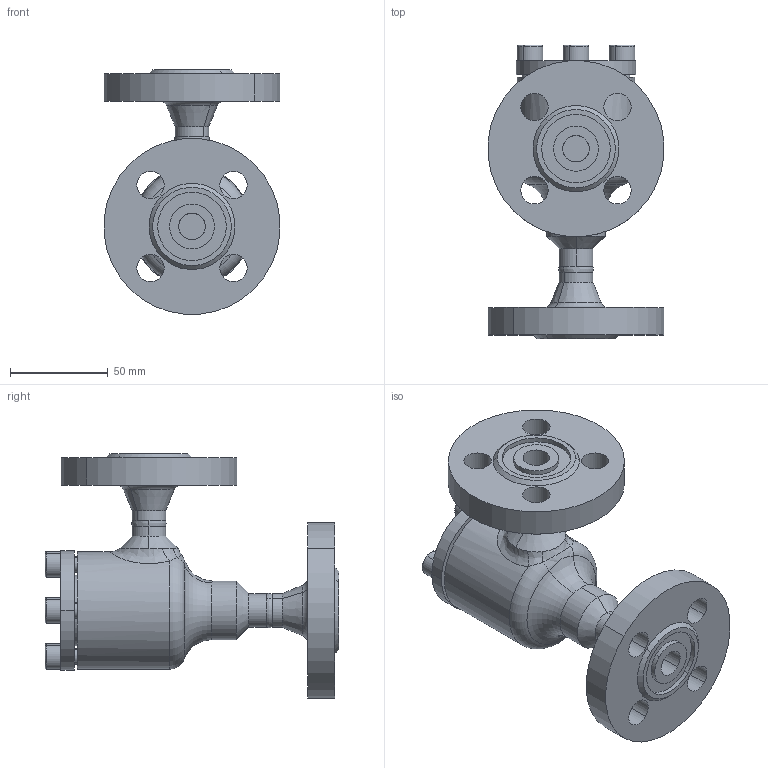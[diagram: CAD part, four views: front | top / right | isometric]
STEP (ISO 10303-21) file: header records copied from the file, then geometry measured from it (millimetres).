
FILE_DESCRIPTION (( 'STEP AP214' ), '1' );
FILE_NAME ('SS52420D08-DN010_DIN-FL-N_PS40.STEP', '2006-05-02T05:53:50', ( 'Herr Grams' ), ( 'AWP GmbH' ), 'SwSTEP 2.0', 'SolidWorks 2002296', '' );
FILE_SCHEMA (( 'AUTOMOTIVE_DESIGN' ));
Length unit declared in the file: millimetre
Products named in the file (9): SS52420D08-DN010_DIN-FL-N_PS40; Gehäuse-kpl16420-DN010_DIN_PS40_Standard; Flansch-DIN2635-Nut_PS40_DIN-Flansch-DN010_PS40-Nut; Gehäuse16400-DN010_Standard; bead16420-Geh-010-2_Standard; bead16420-Geh-010-1_Standard; SS52300K10_Deck+Schr-DN10-20_Standard; Deckel52300K10-DN10-20_Standard; Zylinderschraube-DIN912_M 8x 16
Assembly tree (12 placements, depth 3):
  SS52420D08-DN010_DIN-FL-N_PS40
    SS52300K10_Deck+Schr-DN10-20_Standard
      Zylinderschraube-DIN912_M 8x 16  x4
      Deckel52300K10-DN10-20_Standard
    Gehäuse-kpl16420-DN010_DIN_PS40_Standard
      Flansch-DIN2635-Nut_PS40_DIN-Flansch-DN010_PS40-Nut  x2
      Gehäuse16400-DN010_Standard
      bead16420-Geh-010-1_Standard
      bead16420-Geh-010-2_Standard
Bounding box: 89.66 x 150 x 124.83 mm (x, y, z)
Volume: 368584.3 mm3; surface area: 76597.9 mm2
Topology: 10 solids, 10 shells, 210 faces, 463 edges, 291 vertices
Faces by surface type: cylinder 82, plane 63, cone 36, torus 15, bspline 14
Entity records: 15502 total; most frequent: CARTESIAN_POINT 12103, DIRECTION 634, ORIENTED_EDGE 554, EDGE_CURVE 277, AXIS2_PLACEMENT_3D 270, VERTEX_POINT 173, EDGE_LOOP 154, CIRCLE 143
